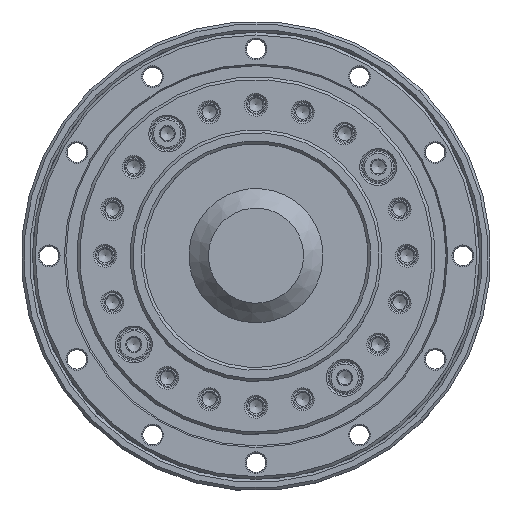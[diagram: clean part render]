
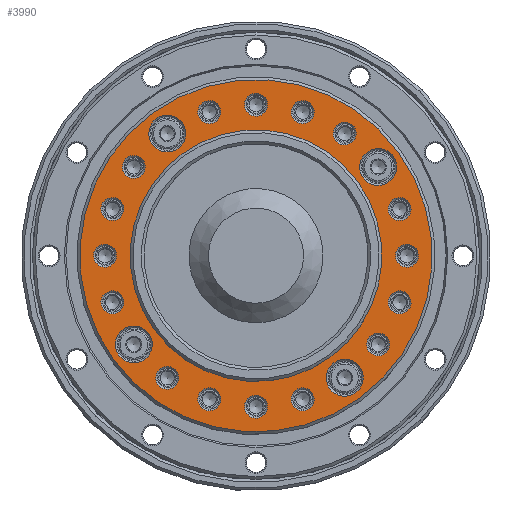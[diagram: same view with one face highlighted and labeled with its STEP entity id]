
A CAD part, top view. The second image highlights one B-rep face of the part: STEP entity #3990.
In plain terms, the highlighted planar face has unit normal (0, 0, 1).
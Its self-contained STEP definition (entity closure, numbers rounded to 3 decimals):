
#3990=ADVANCED_FACE('',(#5647,#5648,#5649,#5650,#5651,#5652,#5653,#5654,
#5655,#5656,#5657,#5658,#5659,#5660,#5661,#5662,#5663,#5664,#5665,#5666,
#5667,#5668),#4361,.T.);
#4361=PLANE('',#15768);
#5647=FACE_BOUND('',#7415,.T.);
#5648=FACE_BOUND('',#7416,.T.);
#5649=FACE_BOUND('',#7417,.T.);
#5650=FACE_BOUND('',#7418,.T.);
#5651=FACE_BOUND('',#7419,.T.);
#5652=FACE_BOUND('',#7420,.T.);
#5653=FACE_BOUND('',#7421,.T.);
#5654=FACE_BOUND('',#7422,.T.);
#5655=FACE_BOUND('',#7423,.T.);
#5656=FACE_BOUND('',#7424,.T.);
#5657=FACE_BOUND('',#7425,.T.);
#5658=FACE_BOUND('',#7426,.T.);
#5659=FACE_BOUND('',#7427,.T.);
#5660=FACE_BOUND('',#7428,.T.);
#5661=FACE_BOUND('',#7429,.T.);
#5662=FACE_BOUND('',#7430,.T.);
#5663=FACE_BOUND('',#7431,.T.);
#5664=FACE_BOUND('',#7432,.T.);
#5665=FACE_BOUND('',#7433,.T.);
#5666=FACE_BOUND('',#7434,.T.);
#5667=FACE_BOUND('',#7435,.T.);
#5668=FACE_BOUND('',#7436,.T.);
#7415=EDGE_LOOP('',(#10041));
#7416=EDGE_LOOP('',(#10042));
#7417=EDGE_LOOP('',(#10043));
#7418=EDGE_LOOP('',(#10044));
#7419=EDGE_LOOP('',(#10045));
#7420=EDGE_LOOP('',(#10046));
#7421=EDGE_LOOP('',(#10047));
#7422=EDGE_LOOP('',(#10048));
#7423=EDGE_LOOP('',(#10049));
#7424=EDGE_LOOP('',(#10050));
#7425=EDGE_LOOP('',(#10051));
#7426=EDGE_LOOP('',(#10052));
#7427=EDGE_LOOP('',(#10053));
#7428=EDGE_LOOP('',(#10054));
#7429=EDGE_LOOP('',(#10055));
#7430=EDGE_LOOP('',(#10056));
#7431=EDGE_LOOP('',(#10057));
#7432=EDGE_LOOP('',(#10058));
#7433=EDGE_LOOP('',(#10059));
#7434=EDGE_LOOP('',(#10060));
#7435=EDGE_LOOP('',(#10061));
#7436=EDGE_LOOP('',(#10062));
#10041=ORIENTED_EDGE('',*,*,#12866,.T.);
#10042=ORIENTED_EDGE('',*,*,#12867,.T.);
#10043=ORIENTED_EDGE('',*,*,#12868,.T.);
#10044=ORIENTED_EDGE('',*,*,#12869,.T.);
#10045=ORIENTED_EDGE('',*,*,#12870,.T.);
#10046=ORIENTED_EDGE('',*,*,#12871,.T.);
#10047=ORIENTED_EDGE('',*,*,#12872,.T.);
#10048=ORIENTED_EDGE('',*,*,#12873,.T.);
#10049=ORIENTED_EDGE('',*,*,#12874,.T.);
#10050=ORIENTED_EDGE('',*,*,#12875,.T.);
#10051=ORIENTED_EDGE('',*,*,#12876,.T.);
#10052=ORIENTED_EDGE('',*,*,#12877,.T.);
#10053=ORIENTED_EDGE('',*,*,#12878,.T.);
#10054=ORIENTED_EDGE('',*,*,#12879,.T.);
#10055=ORIENTED_EDGE('',*,*,#12880,.T.);
#10056=ORIENTED_EDGE('',*,*,#12881,.T.);
#10057=ORIENTED_EDGE('',*,*,#12882,.T.);
#10058=ORIENTED_EDGE('',*,*,#12883,.T.);
#10059=ORIENTED_EDGE('',*,*,#12884,.T.);
#10060=ORIENTED_EDGE('',*,*,#12885,.T.);
#10061=ORIENTED_EDGE('',*,*,#12886,.T.);
#10062=ORIENTED_EDGE('',*,*,#12865,.F.);
#11516=VERTEX_POINT('',#24761);
#11517=VERTEX_POINT('',#24764);
#11518=VERTEX_POINT('',#24766);
#11519=VERTEX_POINT('',#24768);
#11520=VERTEX_POINT('',#24770);
#11521=VERTEX_POINT('',#24772);
#11522=VERTEX_POINT('',#24774);
#11523=VERTEX_POINT('',#24776);
#11524=VERTEX_POINT('',#24778);
#11525=VERTEX_POINT('',#24780);
#11526=VERTEX_POINT('',#24782);
#11527=VERTEX_POINT('',#24784);
#11528=VERTEX_POINT('',#24786);
#11529=VERTEX_POINT('',#24788);
#11530=VERTEX_POINT('',#24790);
#11531=VERTEX_POINT('',#24792);
#11532=VERTEX_POINT('',#24794);
#11533=VERTEX_POINT('',#24796);
#11534=VERTEX_POINT('',#24798);
#11535=VERTEX_POINT('',#24800);
#11536=VERTEX_POINT('',#24802);
#11537=VERTEX_POINT('',#24804);
#12865=EDGE_CURVE('',#11516,#11516,#13961,.T.);
#12866=EDGE_CURVE('',#11517,#11517,#13962,.T.);
#12867=EDGE_CURVE('',#11518,#11518,#13963,.T.);
#12868=EDGE_CURVE('',#11519,#11519,#13964,.T.);
#12869=EDGE_CURVE('',#11520,#11520,#13965,.T.);
#12870=EDGE_CURVE('',#11521,#11521,#13966,.T.);
#12871=EDGE_CURVE('',#11522,#11522,#13967,.T.);
#12872=EDGE_CURVE('',#11523,#11523,#13968,.T.);
#12873=EDGE_CURVE('',#11524,#11524,#13969,.T.);
#12874=EDGE_CURVE('',#11525,#11525,#13970,.T.);
#12875=EDGE_CURVE('',#11526,#11526,#13971,.T.);
#12876=EDGE_CURVE('',#11527,#11527,#13972,.T.);
#12877=EDGE_CURVE('',#11528,#11528,#13973,.T.);
#12878=EDGE_CURVE('',#11529,#11529,#13974,.T.);
#12879=EDGE_CURVE('',#11530,#11530,#13975,.T.);
#12880=EDGE_CURVE('',#11531,#11531,#13976,.T.);
#12881=EDGE_CURVE('',#11532,#11532,#13977,.T.);
#12882=EDGE_CURVE('',#11533,#11533,#13978,.T.);
#12883=EDGE_CURVE('',#11534,#11534,#13979,.T.);
#12884=EDGE_CURVE('',#11535,#11535,#13980,.T.);
#12885=EDGE_CURVE('',#11536,#11536,#13981,.T.);
#12886=EDGE_CURVE('',#11537,#11537,#13982,.T.);
#13961=CIRCLE('',#15745,31.5);
#13962=CIRCLE('',#15747,3.3);
#13963=CIRCLE('',#15748,2.05);
#13964=CIRCLE('',#15749,2.05);
#13965=CIRCLE('',#15750,2.05);
#13966=CIRCLE('',#15751,2.05);
#13967=CIRCLE('',#15752,2.05);
#13968=CIRCLE('',#15753,2.05);
#13969=CIRCLE('',#15754,2.05);
#13970=CIRCLE('',#15755,2.05);
#13971=CIRCLE('',#15756,2.05);
#13972=CIRCLE('',#15757,2.05);
#13973=CIRCLE('',#15758,2.05);
#13974=CIRCLE('',#15759,2.05);
#13975=CIRCLE('',#15760,2.05);
#13976=CIRCLE('',#15761,2.05);
#13977=CIRCLE('',#15762,2.05);
#13978=CIRCLE('',#15763,2.05);
#13979=CIRCLE('',#15764,3.3);
#13980=CIRCLE('',#15765,3.3);
#13981=CIRCLE('',#15766,3.3);
#13982=CIRCLE('',#15767,22.5);
#15745=AXIS2_PLACEMENT_3D('',#24760,#19523,#19524);
#15747=AXIS2_PLACEMENT_3D('',#24763,#19527,#19528);
#15748=AXIS2_PLACEMENT_3D('',#24765,#19529,#19530);
#15749=AXIS2_PLACEMENT_3D('',#24767,#19531,#19532);
#15750=AXIS2_PLACEMENT_3D('',#24769,#19533,#19534);
#15751=AXIS2_PLACEMENT_3D('',#24771,#19535,#19536);
#15752=AXIS2_PLACEMENT_3D('',#24773,#19537,#19538);
#15753=AXIS2_PLACEMENT_3D('',#24775,#19539,#19540);
#15754=AXIS2_PLACEMENT_3D('',#24777,#19541,#19542);
#15755=AXIS2_PLACEMENT_3D('',#24779,#19543,#19544);
#15756=AXIS2_PLACEMENT_3D('',#24781,#19545,#19546);
#15757=AXIS2_PLACEMENT_3D('',#24783,#19547,#19548);
#15758=AXIS2_PLACEMENT_3D('',#24785,#19549,#19550);
#15759=AXIS2_PLACEMENT_3D('',#24787,#19551,#19552);
#15760=AXIS2_PLACEMENT_3D('',#24789,#19553,#19554);
#15761=AXIS2_PLACEMENT_3D('',#24791,#19555,#19556);
#15762=AXIS2_PLACEMENT_3D('',#24793,#19557,#19558);
#15763=AXIS2_PLACEMENT_3D('',#24795,#19559,#19560);
#15764=AXIS2_PLACEMENT_3D('',#24797,#19561,#19562);
#15765=AXIS2_PLACEMENT_3D('',#24799,#19563,#19564);
#15766=AXIS2_PLACEMENT_3D('',#24801,#19565,#19566);
#15767=AXIS2_PLACEMENT_3D('',#24803,#19567,#19568);
#15768=AXIS2_PLACEMENT_3D('',#24805,#19569,#19570);
#19523=DIRECTION('',(0.,0.,-1.));
#19524=DIRECTION('',(-1.,0.,0.));
#19527=DIRECTION('',(0.,0.,-1.));
#19528=DIRECTION('',(1.,0.,0.));
#19529=DIRECTION('',(0.,0.,-1.));
#19530=DIRECTION('',(1.,0.,0.));
#19531=DIRECTION('',(0.,0.,-1.));
#19532=DIRECTION('',(1.,0.,0.));
#19533=DIRECTION('',(0.,0.,-1.));
#19534=DIRECTION('',(1.,0.,0.));
#19535=DIRECTION('',(0.,0.,-1.));
#19536=DIRECTION('',(1.,0.,0.));
#19537=DIRECTION('',(0.,0.,-1.));
#19538=DIRECTION('',(1.,0.,0.));
#19539=DIRECTION('',(0.,0.,-1.));
#19540=DIRECTION('',(1.,0.,0.));
#19541=DIRECTION('',(0.,0.,-1.));
#19542=DIRECTION('',(1.,0.,0.));
#19543=DIRECTION('',(0.,0.,-1.));
#19544=DIRECTION('',(1.,0.,0.));
#19545=DIRECTION('',(0.,0.,-1.));
#19546=DIRECTION('',(1.,0.,0.));
#19547=DIRECTION('',(0.,0.,-1.));
#19548=DIRECTION('',(1.,0.,0.));
#19549=DIRECTION('',(0.,0.,-1.));
#19550=DIRECTION('',(1.,0.,0.));
#19551=DIRECTION('',(0.,0.,-1.));
#19552=DIRECTION('',(1.,0.,0.));
#19553=DIRECTION('',(0.,0.,-1.));
#19554=DIRECTION('',(1.,0.,0.));
#19555=DIRECTION('',(0.,0.,-1.));
#19556=DIRECTION('',(1.,0.,0.));
#19557=DIRECTION('',(0.,0.,-1.));
#19558=DIRECTION('',(1.,0.,0.));
#19559=DIRECTION('',(0.,0.,-1.));
#19560=DIRECTION('',(1.,0.,0.));
#19561=DIRECTION('',(0.,0.,-1.));
#19562=DIRECTION('',(1.,0.,0.));
#19563=DIRECTION('',(0.,0.,-1.));
#19564=DIRECTION('',(1.,0.,0.));
#19565=DIRECTION('',(0.,0.,-1.));
#19566=DIRECTION('',(1.,0.,0.));
#19567=DIRECTION('',(0.,0.,-1.));
#19568=DIRECTION('',(-1.,0.,0.));
#19569=DIRECTION('',(0.,0.,1.));
#19570=DIRECTION('',(1.,0.,0.));
#24760=CARTESIAN_POINT('',(0.,0.,8.5));
#24761=CARTESIAN_POINT('',(-31.5,0.,8.5));
#24763=CARTESIAN_POINT('',(0.,-27.,8.5));
#24764=CARTESIAN_POINT('',(3.3,-27.,8.5));
#24765=CARTESIAN_POINT('',(-25.679,-8.343,8.5));
#24766=CARTESIAN_POINT('',(-23.629,-8.343,8.5));
#24767=CARTESIAN_POINT('',(-21.843,-15.87,8.5));
#24768=CARTESIAN_POINT('',(-19.793,-15.87,8.5));
#24769=CARTESIAN_POINT('',(-15.87,-21.843,8.5));
#24770=CARTESIAN_POINT('',(-13.82,-21.843,8.5));
#24771=CARTESIAN_POINT('',(-8.343,-25.679,8.5));
#24772=CARTESIAN_POINT('',(-6.293,-25.679,8.5));
#24773=CARTESIAN_POINT('',(8.343,-25.679,8.5));
#24774=CARTESIAN_POINT('',(10.393,-25.679,8.5));
#24775=CARTESIAN_POINT('',(15.87,-21.843,8.5));
#24776=CARTESIAN_POINT('',(17.92,-21.843,8.5));
#24777=CARTESIAN_POINT('',(21.843,-15.87,8.5));
#24778=CARTESIAN_POINT('',(23.893,-15.87,8.5));
#24779=CARTESIAN_POINT('',(25.679,-8.343,8.5));
#24780=CARTESIAN_POINT('',(27.729,-8.343,8.5));
#24781=CARTESIAN_POINT('',(25.679,8.343,8.5));
#24782=CARTESIAN_POINT('',(27.729,8.343,8.5));
#24783=CARTESIAN_POINT('',(21.843,15.87,8.5));
#24784=CARTESIAN_POINT('',(23.893,15.87,8.5));
#24785=CARTESIAN_POINT('',(15.87,21.843,8.5));
#24786=CARTESIAN_POINT('',(17.92,21.843,8.5));
#24787=CARTESIAN_POINT('',(8.343,25.679,8.5));
#24788=CARTESIAN_POINT('',(10.393,25.679,8.5));
#24789=CARTESIAN_POINT('',(-25.679,8.343,8.5));
#24790=CARTESIAN_POINT('',(-23.629,8.343,8.5));
#24791=CARTESIAN_POINT('',(-21.843,15.87,8.5));
#24792=CARTESIAN_POINT('',(-19.793,15.87,8.5));
#24793=CARTESIAN_POINT('',(-15.87,21.843,8.5));
#24794=CARTESIAN_POINT('',(-13.82,21.843,8.5));
#24795=CARTESIAN_POINT('',(-8.343,25.679,8.5));
#24796=CARTESIAN_POINT('',(-6.293,25.679,8.5));
#24797=CARTESIAN_POINT('',(27.,0.,8.5));
#24798=CARTESIAN_POINT('',(30.3,0.,8.5));
#24799=CARTESIAN_POINT('',(-27.,0.,8.5));
#24800=CARTESIAN_POINT('',(-23.7,0.,8.5));
#24801=CARTESIAN_POINT('',(0.,27.,8.5));
#24802=CARTESIAN_POINT('',(3.3,27.,8.5));
#24803=CARTESIAN_POINT('',(0.,0.,8.5));
#24804=CARTESIAN_POINT('',(-22.5,0.,8.5));
#24805=CARTESIAN_POINT('',(31.5,0.,8.5));
